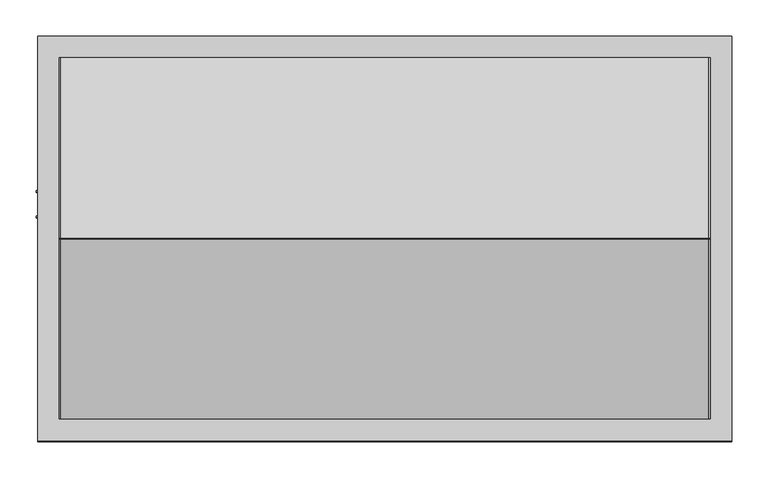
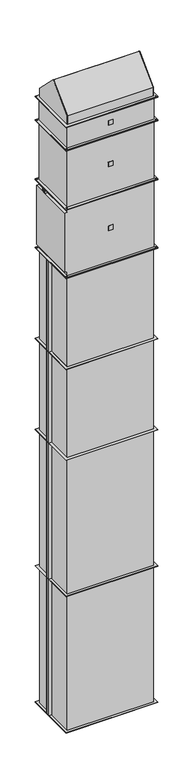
"""IFC4 building model written with IfcOpenShell, lengths in millimetres: proxy geometry, KORF_Завеса_ЭлектрическийНагрев_PWZ_C : PWZ-C 90-50 E."""

from ifc_helpers import new_model, si_unit, point, frame, frame_2d, origin, origin_with_axes, place, context, project, spatial, polyline, circle_curve, trimmed, segment, composite_curve, outline, extrude, source, transform, mapped, element, save


def mechanical_equipment_491a1ca1(model_context):
    return source(origin(), model_context, "Body", "SweptSolid", [
        extrude(outline(polyline([(25.0, -255.0), (-25.0, -255.0), (-25.0, -253.0), (25.0, -253.0), (25.0, -255.0)])), frame((0.0, 0.0, 5351.5), z_axis=(0.0, 0.0, 1.0), x_axis=(1.0, 0.0, 0.0)), (0.0, 0.0, 1.0), 50.0),
        extrude(outline(composite_curve([segment(trimmed(circle_curve(frame_2d((-466.5, 126.5)), 7.5), [point((-459.0, 126.5))], [point((-474.0, 126.5))], False, "CARTESIAN"), True, "CONTINUOUS"), segment(trimmed(circle_curve(frame_2d((-466.5, 126.5)), 7.5), [point((-474.0, 126.5))], [point((-459.0, 126.5))], False, "CARTESIAN"), True, "CONTINUOUS")], self_intersect=False)), frame((0.0, 0.0, 5703.0), z_axis=(0.0, 0.0, 1.0), x_axis=(1.0, 0.0, 0.0)), (0.0, 0.0, 1.0), 30.0),
        extrude(outline(composite_curve([segment(trimmed(circle_curve(frame_2d((-466.5, 106.5)), 7.5), [point((-459.0, 106.5))], [point((-474.0, 106.5))], False, "CARTESIAN"), True, "CONTINUOUS"), segment(trimmed(circle_curve(frame_2d((-466.5, 106.5)), 7.5), [point((-474.0, 106.5))], [point((-459.0, 106.5))], False, "CARTESIAN"), True, "CONTINUOUS")], self_intersect=False)), frame((0.0, 0.0, 5703.0), z_axis=(0.0, 0.0, 1.0), x_axis=(1.0, 0.0, 0.0)), (0.0, 0.0, 1.0), 30.0),
        extrude(outline(composite_curve([segment(trimmed(circle_curve(frame_2d((-466.5, 146.5)), 7.5), [point((-459.0, 146.5))], [point((-474.0, 146.5))], False, "CARTESIAN"), True, "CONTINUOUS"), segment(trimmed(circle_curve(frame_2d((-466.5, 146.5)), 7.5), [point((-474.0, 146.5))], [point((-459.0, 146.5))], False, "CARTESIAN"), True, "CONTINUOUS")], self_intersect=False)), frame((0.0, 0.0, 5703.0), z_axis=(0.0, 0.0, 1.0), x_axis=(1.0, 0.0, 0.0)), (0.0, 0.0, 1.0), 30.0),
        extrude(outline(polyline([(-146.5, 5351.5), (-134.0, 5351.5), (-134.0, 5426.5), (-119.0, 5426.5), (-119.0, 5351.5), (-106.5, 5351.5), (-126.5, 5326.5), (-146.5, 5351.5)])), frame((453.0, 0.0, 0.0), z_axis=(1.0, 0.0, 0.0), x_axis=(0.0, 1.0, 0.0)), (0.0, 0.0, 1.0), 1.0),
        extrude(outline(polyline([(5748.0, 453.0), (5748.0, -453.0), (5703.0, -453.0), (5703.0, -480.0), (5050.0, -480.0), (5050.0, -453.0), (5005.0, -453.0), (5005.0, 453.0), (5748.0, 453.0)])), frame((0.0, -253.0, 0.0), z_axis=(0.0, 1.0, 0.0), x_axis=(0.0, 0.0, 1.0)), (0.0, 0.0, 1.0), 506.0),
        extrude(outline(polyline([(480.0, -280.0), (-480.0, -280.0), (-480.0, 280.0), (480.0, 280.0), (480.0, -280.0)]), holes=[polyline([(450.0, -250.0), (450.0, 250.0), (-450.0, 250.0), (-450.0, -250.0), (450.0, -250.0)]), composite_curve([segment(trimmed(circle_curve(frame_2d((-465.0, -265.0)), 5.5), [point((-459.5, -265.0))], [point((-470.5, -265.0))], True, "CARTESIAN"), True, "CONTINUOUS"), segment(trimmed(circle_curve(frame_2d((-465.0, -265.0)), 5.5), [point((-470.5, -265.0))], [point((-459.5, -265.0))], True, "CARTESIAN"), True, "CONTINUOUS")], self_intersect=False), composite_curve([segment(trimmed(circle_curve(frame_2d((465.0, -265.0)), 5.5), [point((470.5, -265.0))], [point((459.5, -265.0))], True, "CARTESIAN"), True, "CONTINUOUS"), segment(trimmed(circle_curve(frame_2d((465.0, -265.0)), 5.5), [point((459.5, -265.0))], [point((470.5, -265.0))], True, "CARTESIAN"), True, "CONTINUOUS")], self_intersect=False), composite_curve([segment(trimmed(circle_curve(frame_2d((465.0, 265.0)), 5.5), [point((470.5, 265.0))], [point((459.5, 265.0))], True, "CARTESIAN"), True, "CONTINUOUS"), segment(trimmed(circle_curve(frame_2d((465.0, 265.0)), 5.5), [point((459.5, 265.0))], [point((470.5, 265.0))], True, "CARTESIAN"), True, "CONTINUOUS")], self_intersect=False), composite_curve([segment(trimmed(circle_curve(frame_2d((-465.0, 265.0)), 5.5), [point((-459.5, 265.0))], [point((-470.5, 265.0))], True, "CARTESIAN"), True, "CONTINUOUS"), segment(trimmed(circle_curve(frame_2d((-465.0, 265.0)), 5.5), [point((-470.5, 265.0))], [point((-459.5, 265.0))], True, "CARTESIAN"), True, "CONTINUOUS")], self_intersect=False)]), frame((0.0, 0.0, 5748.0), z_axis=(0.0, 0.0, 1.0), x_axis=(1.0, 0.0, 0.0)), (0.0, 0.0, 1.0), 5.0),
        extrude(outline(polyline([(480.0, -280.0), (-480.0, -280.0), (-480.0, 280.0), (480.0, 280.0), (480.0, -280.0)]), holes=[polyline([(450.0, -250.0), (450.0, 250.0), (-450.0, 250.0), (-450.0, -250.0), (450.0, -250.0)]), composite_curve([segment(trimmed(circle_curve(frame_2d((-465.0, -265.0)), 5.5), [point((-459.5, -265.0))], [point((-470.5, -265.0))], True, "CARTESIAN"), True, "CONTINUOUS"), segment(trimmed(circle_curve(frame_2d((-465.0, -265.0)), 5.5), [point((-470.5, -265.0))], [point((-459.5, -265.0))], True, "CARTESIAN"), True, "CONTINUOUS")], self_intersect=False), composite_curve([segment(trimmed(circle_curve(frame_2d((465.0, -265.0)), 5.5), [point((470.5, -265.0))], [point((459.5, -265.0))], True, "CARTESIAN"), True, "CONTINUOUS"), segment(trimmed(circle_curve(frame_2d((465.0, -265.0)), 5.5), [point((459.5, -265.0))], [point((470.5, -265.0))], True, "CARTESIAN"), True, "CONTINUOUS")], self_intersect=False), composite_curve([segment(trimmed(circle_curve(frame_2d((465.0, 265.0)), 5.5), [point((470.5, 265.0))], [point((459.5, 265.0))], True, "CARTESIAN"), True, "CONTINUOUS"), segment(trimmed(circle_curve(frame_2d((465.0, 265.0)), 5.5), [point((459.5, 265.0))], [point((470.5, 265.0))], True, "CARTESIAN"), True, "CONTINUOUS")], self_intersect=False), composite_curve([segment(trimmed(circle_curve(frame_2d((-465.0, 265.0)), 5.5), [point((-459.5, 265.0))], [point((-470.5, 265.0))], True, "CARTESIAN"), True, "CONTINUOUS"), segment(trimmed(circle_curve(frame_2d((-465.0, 265.0)), 5.5), [point((-470.5, 265.0))], [point((-459.5, 265.0))], True, "CARTESIAN"), True, "CONTINUOUS")], self_intersect=False)]), frame((0.0, 0.0, 5000.0), z_axis=(0.0, 0.0, 1.0), x_axis=(1.0, 0.0, 0.0)), (0.0, 0.0, 1.0), 5.0),
        extrude(outline(polyline([(25.0, -255.0), (-25.0, -255.0), (-25.0, -253.0), (25.0, -253.0), (25.0, -255.0)])), frame((0.0, 0.0, 6508.0), z_axis=(0.0, 0.0, 1.0), x_axis=(1.0, 0.0, 0.0)), (0.0, 0.0, 1.0), 50.0),
        extrude(outline(polyline([(-480.0, -280.0), (-480.0, 280.0), (480.0, 280.0), (480.0, -280.0), (-480.0, -280.0)]), holes=[polyline([(-450.0, -250.0), (450.0, -250.0), (450.0, 250.0), (-450.0, 250.0), (-450.0, -250.0)]), composite_curve([segment(trimmed(circle_curve(frame_2d((465.0, -265.0)), 5.5), [point((470.5, -265.0))], [point((459.5, -265.0))], True, "CARTESIAN"), True, "CONTINUOUS"), segment(trimmed(circle_curve(frame_2d((465.0, -265.0)), 5.5), [point((459.5, -265.0))], [point((470.5, -265.0))], True, "CARTESIAN"), True, "CONTINUOUS")], self_intersect=False), composite_curve([segment(trimmed(circle_curve(frame_2d((-465.0, -265.0)), 5.5), [point((-459.5, -265.0))], [point((-470.5, -265.0))], True, "CARTESIAN"), True, "CONTINUOUS"), segment(trimmed(circle_curve(frame_2d((-465.0, -265.0)), 5.5), [point((-470.5, -265.0))], [point((-459.5, -265.0))], True, "CARTESIAN"), True, "CONTINUOUS")], self_intersect=False), composite_curve([segment(trimmed(circle_curve(frame_2d((-465.0, 265.0)), 5.5), [point((-459.5, 265.0))], [point((-470.5, 265.0))], True, "CARTESIAN"), True, "CONTINUOUS"), segment(trimmed(circle_curve(frame_2d((-465.0, 265.0)), 5.5), [point((-470.5, 265.0))], [point((-459.5, 265.0))], True, "CARTESIAN"), True, "CONTINUOUS")], self_intersect=False), composite_curve([segment(trimmed(circle_curve(frame_2d((465.0, 265.0)), 5.5), [point((470.5, 265.0))], [point((459.5, 265.0))], True, "CARTESIAN"), True, "CONTINUOUS"), segment(trimmed(circle_curve(frame_2d((465.0, 265.0)), 5.5), [point((459.5, 265.0))], [point((470.5, 265.0))], True, "CARTESIAN"), True, "CONTINUOUS")], self_intersect=False)]), frame((0.0, 0.0, 6403.0), z_axis=(0.0, 0.0, 1.0), x_axis=(1.0, 0.0, 0.0)), (0.0, 0.0, 1.0), 5.0),
        extrude(outline(polyline([(-480.0, -280.0), (-480.0, 280.0), (480.0, 280.0), (480.0, -280.0), (-480.0, -280.0)]), holes=[polyline([(-450.0, -250.0), (450.0, -250.0), (450.0, 250.0), (-450.0, 250.0), (-450.0, -250.0)]), composite_curve([segment(trimmed(circle_curve(frame_2d((465.0, -265.0)), 5.5), [point((470.5, -265.0))], [point((459.5, -265.0))], True, "CARTESIAN"), True, "CONTINUOUS"), segment(trimmed(circle_curve(frame_2d((465.0, -265.0)), 5.5), [point((459.5, -265.0))], [point((470.5, -265.0))], True, "CARTESIAN"), True, "CONTINUOUS")], self_intersect=False), composite_curve([segment(trimmed(circle_curve(frame_2d((-465.0, -265.0)), 5.5), [point((-459.5, -265.0))], [point((-470.5, -265.0))], True, "CARTESIAN"), True, "CONTINUOUS"), segment(trimmed(circle_curve(frame_2d((-465.0, -265.0)), 5.5), [point((-470.5, -265.0))], [point((-459.5, -265.0))], True, "CARTESIAN"), True, "CONTINUOUS")], self_intersect=False), composite_curve([segment(trimmed(circle_curve(frame_2d((-465.0, 265.0)), 5.5), [point((-459.5, 265.0))], [point((-470.5, 265.0))], True, "CARTESIAN"), True, "CONTINUOUS"), segment(trimmed(circle_curve(frame_2d((-465.0, 265.0)), 5.5), [point((-470.5, 265.0))], [point((-459.5, 265.0))], True, "CARTESIAN"), True, "CONTINUOUS")], self_intersect=False), composite_curve([segment(trimmed(circle_curve(frame_2d((465.0, 265.0)), 5.5), [point((470.5, 265.0))], [point((459.5, 265.0))], True, "CARTESIAN"), True, "CONTINUOUS"), segment(trimmed(circle_curve(frame_2d((465.0, 265.0)), 5.5), [point((459.5, 265.0))], [point((470.5, 265.0))], True, "CARTESIAN"), True, "CONTINUOUS")], self_intersect=False)]), frame((0.0, 0.0, 6658.0), z_axis=(0.0, 0.0, 1.0), x_axis=(1.0, 0.0, 0.0)), (0.0, 0.0, 1.0), 5.0),
        extrude(outline(polyline([(-453.0, -253.0), (-453.0, 253.0), (453.0, 253.0), (453.0, -253.0), (-453.0, -253.0)])), frame((0.0, 0.0, 6408.0), z_axis=(0.0, 0.0, 1.0), x_axis=(1.0, 0.0, 0.0)), (0.0, 0.0, 1.0), 250.0),
        extrude(outline(polyline([(25.0, -255.0), (-25.0, -255.0), (-25.0, -253.0), (25.0, -253.0), (25.0, -255.0)])), frame((0.0, 0.0, 6053.0), z_axis=(0.0, 0.0, 1.0), x_axis=(1.0, 0.0, 0.0)), (0.0, 0.0, 1.0), 50.0),
        extrude(outline(polyline([(480.0, -280.0), (-480.0, -280.0), (-480.0, 280.0), (480.0, 280.0), (480.0, -280.0)]), holes=[polyline([(450.0, -250.0), (450.0, 250.0), (-450.0, 250.0), (-450.0, -250.0), (450.0, -250.0)]), composite_curve([segment(trimmed(circle_curve(frame_2d((-465.0, -265.0)), 5.5), [point((-459.5, -265.0))], [point((-470.5, -265.0))], True, "CARTESIAN"), True, "CONTINUOUS"), segment(trimmed(circle_curve(frame_2d((-465.0, -265.0)), 5.5), [point((-470.5, -265.0))], [point((-459.5, -265.0))], True, "CARTESIAN"), True, "CONTINUOUS")], self_intersect=False), composite_curve([segment(trimmed(circle_curve(frame_2d((465.0, -265.0)), 5.5), [point((470.5, -265.0))], [point((459.5, -265.0))], True, "CARTESIAN"), True, "CONTINUOUS"), segment(trimmed(circle_curve(frame_2d((465.0, -265.0)), 5.5), [point((459.5, -265.0))], [point((470.5, -265.0))], True, "CARTESIAN"), True, "CONTINUOUS")], self_intersect=False), composite_curve([segment(trimmed(circle_curve(frame_2d((465.0, 265.0)), 5.5), [point((470.5, 265.0))], [point((459.5, 265.0))], True, "CARTESIAN"), True, "CONTINUOUS"), segment(trimmed(circle_curve(frame_2d((465.0, 265.0)), 5.5), [point((459.5, 265.0))], [point((470.5, 265.0))], True, "CARTESIAN"), True, "CONTINUOUS")], self_intersect=False), composite_curve([segment(trimmed(circle_curve(frame_2d((-465.0, 265.0)), 5.5), [point((-459.5, 265.0))], [point((-470.5, 265.0))], True, "CARTESIAN"), True, "CONTINUOUS"), segment(trimmed(circle_curve(frame_2d((-465.0, 265.0)), 5.5), [point((-470.5, 265.0))], [point((-459.5, 265.0))], True, "CARTESIAN"), True, "CONTINUOUS")], self_intersect=False)]), frame((0.0, 0.0, 6398.0), z_axis=(0.0, 0.0, 1.0), x_axis=(1.0, 0.0, 0.0)), (0.0, 0.0, 1.0), 5.0),
        extrude(outline(polyline([(480.0, -280.0), (-480.0, -280.0), (-480.0, 280.0), (480.0, 280.0), (480.0, -280.0)]), holes=[polyline([(450.0, -250.0), (450.0, 250.0), (-450.0, 250.0), (-450.0, -250.0), (450.0, -250.0)]), composite_curve([segment(trimmed(circle_curve(frame_2d((-465.0, -265.0)), 5.5), [point((-459.5, -265.0))], [point((-470.5, -265.0))], True, "CARTESIAN"), True, "CONTINUOUS"), segment(trimmed(circle_curve(frame_2d((-465.0, -265.0)), 5.5), [point((-470.5, -265.0))], [point((-459.5, -265.0))], True, "CARTESIAN"), True, "CONTINUOUS")], self_intersect=False), composite_curve([segment(trimmed(circle_curve(frame_2d((465.0, -265.0)), 5.5), [point((470.5, -265.0))], [point((459.5, -265.0))], True, "CARTESIAN"), True, "CONTINUOUS"), segment(trimmed(circle_curve(frame_2d((465.0, -265.0)), 5.5), [point((459.5, -265.0))], [point((470.5, -265.0))], True, "CARTESIAN"), True, "CONTINUOUS")], self_intersect=False), composite_curve([segment(trimmed(circle_curve(frame_2d((465.0, 265.0)), 5.5), [point((470.5, 265.0))], [point((459.5, 265.0))], True, "CARTESIAN"), True, "CONTINUOUS"), segment(trimmed(circle_curve(frame_2d((465.0, 265.0)), 5.5), [point((459.5, 265.0))], [point((470.5, 265.0))], True, "CARTESIAN"), True, "CONTINUOUS")], self_intersect=False), composite_curve([segment(trimmed(circle_curve(frame_2d((-465.0, 265.0)), 5.5), [point((-459.5, 265.0))], [point((-470.5, 265.0))], True, "CARTESIAN"), True, "CONTINUOUS"), segment(trimmed(circle_curve(frame_2d((-465.0, 265.0)), 5.5), [point((-470.5, 265.0))], [point((-459.5, 265.0))], True, "CARTESIAN"), True, "CONTINUOUS")], self_intersect=False)]), frame((0.0, 0.0, 5753.0), z_axis=(0.0, 0.0, 1.0), x_axis=(1.0, 0.0, 0.0)), (0.0, 0.0, 1.0), 5.0),
        extrude(outline(polyline([(453.0, -253.0), (-453.0, -253.0), (-453.0, 253.0), (453.0, 253.0), (453.0, -253.0)])), frame((0.0, 0.0, 5758.0), z_axis=(0.0, 0.0, 1.0), x_axis=(1.0, 0.0, 0.0)), (0.0, 0.0, 1.0), 640.0),
        extrude(outline(polyline([(450.0, 250.0), (450.0, -250.0), (-450.0, -250.0), (-450.0, 250.0), (450.0, 250.0)])), frame((0.0, 0.0, 4000.0), z_axis=(0.0, 0.0, 1.0), x_axis=(1.0, 0.0, 0.0)), (0.0, 0.0, 1.0), 1000.0),
        extrude(outline(polyline([(-478.0, 62.5), (-450.0, 62.5), (-450.0, 33.5), (-478.0, 33.5), (-478.0, 62.5)])), frame((0.0, 0.0, 4002.0), z_axis=(0.0, 0.0, 1.0), x_axis=(1.0, 0.0, 0.0)), (0.0, 0.0, 1.0), 996.0),
        extrude(outline(polyline([(-482.0, 66.5), (-450.0, 66.5), (-450.0, 64.5), (-482.0, 64.5), (-482.0, 66.5)])), frame((0.0, 0.0, 4002.0), z_axis=(0.0, 0.0, 1.0), x_axis=(1.0, 0.0, 0.0)), (0.0, 0.0, 1.0), 996.0),
        extrude(outline(polyline([(-482.0, 29.5), (-482.0, 31.5), (-450.0, 31.5), (-450.0, 29.5), (-482.0, 29.5)])), frame((0.0, 0.0, 4002.0), z_axis=(0.0, 0.0, 1.0), x_axis=(1.0, 0.0, 0.0)), (0.0, 0.0, 1.0), 996.0),
        extrude(outline(polyline([(480.0, 280.0), (480.0, -280.0), (-480.0, -280.0), (-480.0, 280.0), (480.0, 280.0)]), holes=[polyline([(450.0, 250.0), (-450.0, 250.0), (-450.0, -250.0), (450.0, -250.0), (450.0, 250.0)])]), frame((0.0, 0.0, 4998.0), z_axis=(0.0, 0.0, 1.0), x_axis=(1.0, 0.0, 0.0)), (0.0, 0.0, 1.0), 2.0),
        extrude(outline(polyline([(480.0, 280.0), (480.0, -280.0), (-480.0, -280.0), (-480.0, 280.0), (480.0, 280.0)]), holes=[polyline([(450.0, 250.0), (-450.0, 250.0), (-450.0, -250.0), (450.0, -250.0), (450.0, 250.0)])]), frame((0.0, 0.0, 4000.0), z_axis=(0.0, 0.0, 1.0), x_axis=(1.0, 0.0, 0.0)), (0.0, 0.0, 1.0), 2.0),
        extrude(outline(polyline([(450.0, 250.0), (450.0, -250.0), (-450.0, -250.0), (-450.0, 250.0), (450.0, 250.0)])), frame((0.0, 0.0, 3000.0), z_axis=(0.0, 0.0, 1.0), x_axis=(1.0, 0.0, 0.0)), (0.0, 0.0, 1.0), 1000.0),
        extrude(outline(polyline([(-478.0, 62.5), (-450.0, 62.5), (-450.0, 33.5), (-478.0, 33.5), (-478.0, 62.5)])), frame((0.0, 0.0, 3002.0), z_axis=(0.0, 0.0, 1.0), x_axis=(1.0, 0.0, 0.0)), (0.0, 0.0, 1.0), 996.0),
        extrude(outline(polyline([(-482.0, 66.5), (-450.0, 66.5), (-450.0, 64.5), (-482.0, 64.5), (-482.0, 66.5)])), frame((0.0, 0.0, 3002.0), z_axis=(0.0, 0.0, 1.0), x_axis=(1.0, 0.0, 0.0)), (0.0, 0.0, 1.0), 996.0),
        extrude(outline(polyline([(-482.0, 29.5), (-482.0, 31.5), (-450.0, 31.5), (-450.0, 29.5), (-482.0, 29.5)])), frame((0.0, 0.0, 3002.0), z_axis=(0.0, 0.0, 1.0), x_axis=(1.0, 0.0, 0.0)), (0.0, 0.0, 1.0), 996.0),
        extrude(outline(polyline([(480.0, 280.0), (480.0, -280.0), (-480.0, -280.0), (-480.0, 280.0), (480.0, 280.0)]), holes=[polyline([(450.0, 250.0), (-450.0, 250.0), (-450.0, -250.0), (450.0, -250.0), (450.0, 250.0)])]), frame((0.0, 0.0, 3998.0), z_axis=(0.0, 0.0, 1.0), x_axis=(1.0, 0.0, 0.0)), (0.0, 0.0, 1.0), 2.0),
        extrude(outline(polyline([(480.0, 280.0), (480.0, -280.0), (-480.0, -280.0), (-480.0, 280.0), (480.0, 280.0)]), holes=[polyline([(450.0, 250.0), (-450.0, 250.0), (-450.0, -250.0), (450.0, -250.0), (450.0, 250.0)])]), frame((0.0, 0.0, 3000.0), z_axis=(0.0, 0.0, 1.0), x_axis=(1.0, 0.0, 0.0)), (0.0, 0.0, 1.0), 2.0),
        extrude(outline(polyline([(450.0, 250.0), (450.0, -250.0), (-450.0, -250.0), (-450.0, 250.0), (450.0, 250.0)])), frame((0.0, 0.0, 1500.0), z_axis=(0.0, 0.0, 1.0), x_axis=(1.0, 0.0, 0.0)), (0.0, 0.0, 1.0), 1500.0),
        extrude(outline(polyline([(-478.0, 62.5), (-450.0, 62.5), (-450.0, 33.5), (-478.0, 33.5), (-478.0, 62.5)])), frame((0.0, 0.0, 1502.0), z_axis=(0.0, 0.0, 1.0), x_axis=(1.0, 0.0, 0.0)), (0.0, 0.0, 1.0), 1496.0),
        extrude(outline(polyline([(-482.0, 66.5), (-450.0, 66.5), (-450.0, 64.5), (-482.0, 64.5), (-482.0, 66.5)])), frame((0.0, 0.0, 1502.0), z_axis=(0.0, 0.0, 1.0), x_axis=(1.0, 0.0, 0.0)), (0.0, 0.0, 1.0), 1496.0),
        extrude(outline(polyline([(-482.0, 29.5), (-482.0, 31.5), (-450.0, 31.5), (-450.0, 29.5), (-482.0, 29.5)])), frame((0.0, 0.0, 1502.0), z_axis=(0.0, 0.0, 1.0), x_axis=(1.0, 0.0, 0.0)), (0.0, 0.0, 1.0), 1496.0),
        extrude(outline(polyline([(480.0, 280.0), (480.0, -280.0), (-480.0, -280.0), (-480.0, 280.0), (480.0, 280.0)]), holes=[polyline([(450.0, 250.0), (-450.0, 250.0), (-450.0, -250.0), (450.0, -250.0), (450.0, 250.0)])]), frame((0.0, 0.0, 2998.0), z_axis=(0.0, 0.0, 1.0), x_axis=(1.0, 0.0, 0.0)), (0.0, 0.0, 1.0), 2.0),
        extrude(outline(polyline([(480.0, 280.0), (480.0, -280.0), (-480.0, -280.0), (-480.0, 280.0), (480.0, 280.0)]), holes=[polyline([(450.0, 250.0), (-450.0, 250.0), (-450.0, -250.0), (450.0, -250.0), (450.0, 250.0)])]), frame((0.0, 0.0, 1500.0), z_axis=(0.0, 0.0, 1.0), x_axis=(1.0, 0.0, 0.0)), (0.0, 0.0, 1.0), 2.0),
        extrude(outline(polyline([(450.0, 250.0), (450.0, -250.0), (-450.0, -250.0), (-450.0, 250.0), (450.0, 250.0)])), origin_with_axes(), (0.0, 0.0, 1.0), 1500.0),
        extrude(outline(polyline([(-478.0, 62.5), (-450.0, 62.5), (-450.0, 33.5), (-478.0, 33.5), (-478.0, 62.5)])), frame((0.0, 0.0, 2.0), z_axis=(0.0, 0.0, 1.0), x_axis=(1.0, 0.0, 0.0)), (0.0, 0.0, 1.0), 1496.0),
        extrude(outline(polyline([(-482.0, 66.5), (-450.0, 66.5), (-450.0, 64.5), (-482.0, 64.5), (-482.0, 66.5)])), frame((0.0, 0.0, 2.0), z_axis=(0.0, 0.0, 1.0), x_axis=(1.0, 0.0, 0.0)), (0.0, 0.0, 1.0), 1496.0),
        extrude(outline(polyline([(-482.0, 29.5), (-482.0, 31.5), (-450.0, 31.5), (-450.0, 29.5), (-482.0, 29.5)])), frame((0.0, 0.0, 2.0), z_axis=(0.0, 0.0, 1.0), x_axis=(1.0, 0.0, 0.0)), (0.0, 0.0, 1.0), 1496.0),
        extrude(outline(polyline([(480.0, 280.0), (480.0, -280.0), (-480.0, -280.0), (-480.0, 280.0), (480.0, 280.0)]), holes=[polyline([(450.0, 250.0), (-450.0, 250.0), (-450.0, -250.0), (450.0, -250.0), (450.0, 250.0)])]), frame((0.0, 0.0, 1498.0), z_axis=(0.0, 0.0, 1.0), x_axis=(1.0, 0.0, 0.0)), (0.0, 0.0, 1.0), 2.0),
        extrude(outline(polyline([(480.0, 280.0), (480.0, -280.0), (-480.0, -280.0), (-480.0, 280.0), (480.0, 280.0)]), holes=[polyline([(450.0, 250.0), (-450.0, 250.0), (-450.0, -250.0), (450.0, -250.0), (450.0, 250.0)])]), origin_with_axes(), (0.0, 0.0, 1.0), 2.0),
        extrude(outline(composite_curve([segment(polyline([(250.0, 6760.1428571), (250.0, 6665.0), (-250.0, 6665.0), (-250.0, 6760.1428571), (-0.6395979, 7002.3786763)]), True, "CONTINUOUS"), segment(trimmed(circle_curve(frame_2d((0.0, 7001.7202668)), 0.9179263), [point((-0.6395979, 7002.3786763))], [point((0.6395979, 7002.3786763))], False, "CARTESIAN"), True, "CONTINUOUS"), segment(polyline([(0.6395979, 7002.3786763), (250.0, 6760.1428571)]), True, "CONTINUOUS")], self_intersect=False)), frame((448.0, 0.0, 0.0), z_axis=(1.0, 0.0, 0.0), x_axis=(0.0, 1.0, 0.0)), (0.0, 0.0, 1.0), 2.0),
        extrude(outline(composite_curve([segment(polyline([(250.0, 6760.1428571), (250.0, 6665.0), (-250.0, 6665.0), (-250.0, 6760.1428571), (-0.6395979, 7002.3786763)]), True, "CONTINUOUS"), segment(trimmed(circle_curve(frame_2d((0.0, 7001.7202668)), 0.9179263), [point((-0.6395979, 7002.3786763))], [point((0.6395979, 7002.3786763))], False, "CARTESIAN"), True, "CONTINUOUS"), segment(polyline([(0.6395979, 7002.3786763), (250.0, 6760.1428571)]), True, "CONTINUOUS")], self_intersect=False)), frame((-448.0, 0.0, 0.0), z_axis=(1.0, 0.0, 0.0), x_axis=(0.0, 1.0, 0.0)), (0.0, 0.0, 1.0), 896.0),
        extrude(outline(composite_curve([segment(polyline([(250.0, 6760.1428571), (250.0, 6665.0), (-250.0, 6665.0), (-250.0, 6760.1428571), (-0.6395979, 7002.3786763)]), True, "CONTINUOUS"), segment(trimmed(circle_curve(frame_2d((0.0, 7001.7202668)), 0.9179263), [point((-0.6395979, 7002.3786763))], [point((0.6395979, 7002.3786763))], False, "CARTESIAN"), True, "CONTINUOUS"), segment(polyline([(0.6395979, 7002.3786763), (250.0, 6760.1428571)]), True, "CONTINUOUS")], self_intersect=False)), frame((-450.0, 0.0, 0.0), z_axis=(1.0, 0.0, 0.0), x_axis=(0.0, 1.0, 0.0)), (0.0, 0.0, 1.0), 2.0),
        extrude(outline(polyline([(480.0, 280.0), (480.0, -280.0), (-480.0, -280.0), (-480.0, 280.0), (480.0, 280.0)]), holes=[polyline([(-450.0, 250.0), (-450.0, -250.0), (450.0, -250.0), (450.0, 250.0), (-450.0, 250.0)])]), frame((0.0, 0.0, 6663.0), z_axis=(0.0, 0.0, 1.0), x_axis=(1.0, 0.0, 0.0)), (0.0, 0.0, 1.0), 2.0),
    ])


if __name__ == "__main__":
    model = new_model("IFC4")
    model_context = context("Model", 3, world=origin())
    ifc_project = project(units=[si_unit("LENGTHUNIT", "METRE", prefix="MILLI")], contexts=[model_context])
    site = spatial("IfcSite", under=ifc_project)
    building = spatial("IfcBuilding", under=site)
    placement = place(None, origin())
    mechanical_equipment_shape = mechanical_equipment_491a1ca1(model_context)
    element("IfcBuildingElementProxy", 1, Name="KORF_Завеса_ЭлектрическийНагрев_PWZ_C : PWZ-C 90-50 E", ObjectType="KORF_Завеса_ЭлектрическийНагрев_PWZ_C : PWZ-C 90-50 E", at=placement, inside=building, context=model_context, shape_type="MappedRepresentation", body=[
        mapped(mechanical_equipment_shape, transform((0.0, 0.0, 0.0), x_axis=(1.0, 0.0, 0.0), y_axis=(0.0, 1.0, 0.0), z_axis=(0.0, 0.0, 1.0))),
    ])
    save(model, "model.ifc")
